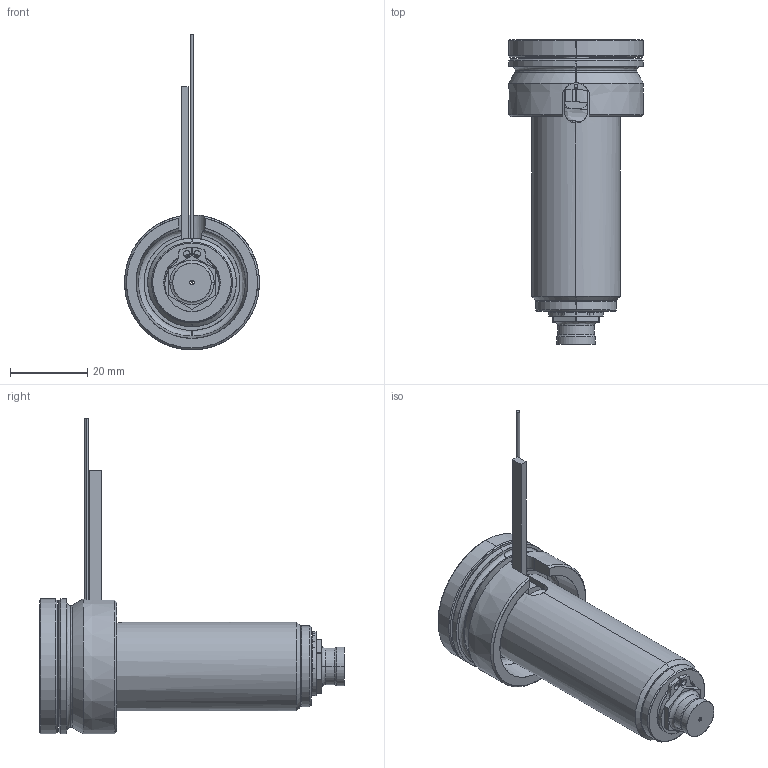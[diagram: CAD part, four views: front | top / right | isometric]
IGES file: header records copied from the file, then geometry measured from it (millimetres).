
Start section: SolidWorks IGES file using analytic representation for surfaces
Global section: file name: C:\Documents and Settings\ws-20\Desktop\TEM\UGEP3151-S-A-1 [Øf-0.30 P-0 ØC-7.0].IGS; native system: SolidWorks 2012; preprocessor: SolidWorks 2012; author: ws-20; date: 120404.081857; units: millimetre
Bounding box: 35 x 79 x 81.9 mm (x, y, z)
Surface area: 18143.6 mm2 (no closed solid volume)
Topology: 0 solids, 0 shells, 128 faces, 2024 edges, 2024 vertices
Faces by surface type: revolution 77, bspline 51
